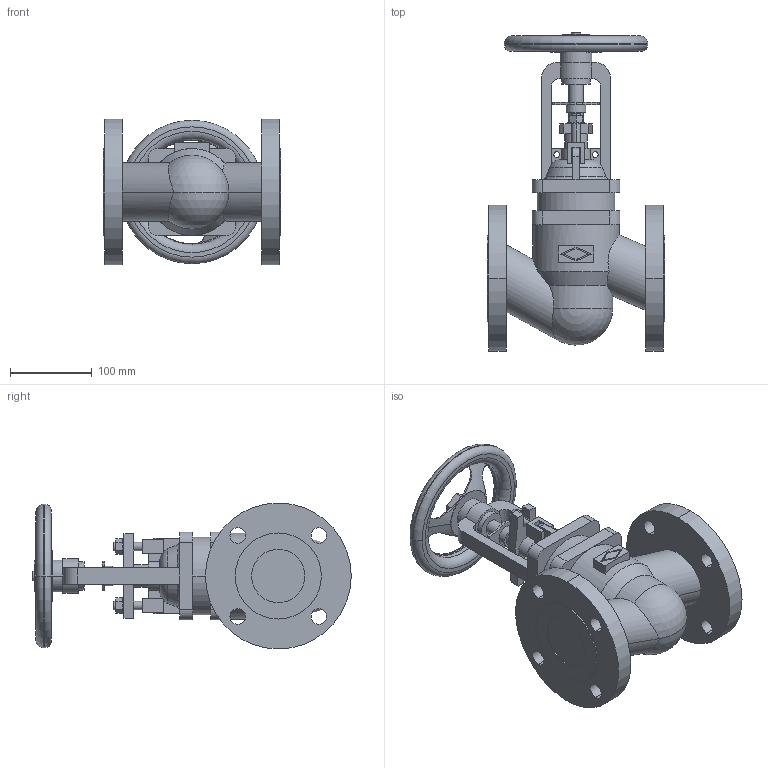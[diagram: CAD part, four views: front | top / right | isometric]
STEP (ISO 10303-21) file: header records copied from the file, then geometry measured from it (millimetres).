
FILE_DESCRIPTION(('OneSpaceDesigner STEP Export'),'2;1');
FILE_NAME('c000004207.stp','2010-04-30T 8:19:32',(''),(''),'OneSpace Designer STEP processor for AP214 (Solid Model)','OneSpace Modeling 15.50B 03-Nov-2007 (C) CoCreate Software GmbH','');
FILE_SCHEMA(('AUTOMOTIVE_DESIGN { 1 0 10303 214 1 1 1 1 }'));
Length unit declared in the file: millimetre
Products named in the file (1): 1
Bounding box: 216 x 388.6 x 178 mm (x, y, z)
Volume: 3469263.3 mm3; surface area: 327637.6 mm2
Topology: 1 solids, 1 shells, 288 faces, 787 edges, 520 vertices
Faces by surface type: plane 139, cylinder 113, torus 22, cone 12, sphere 2
Entity records: 11973 total; most frequent: CARTESIAN_POINT 2705, ORIENTED_EDGE 1570, DIRECTION 1274, EDGE_CURVE 785, VERTEX_POINT 520, AXIS2_PLACEMENT_3D 437, VECTOR 400, LINE 400
